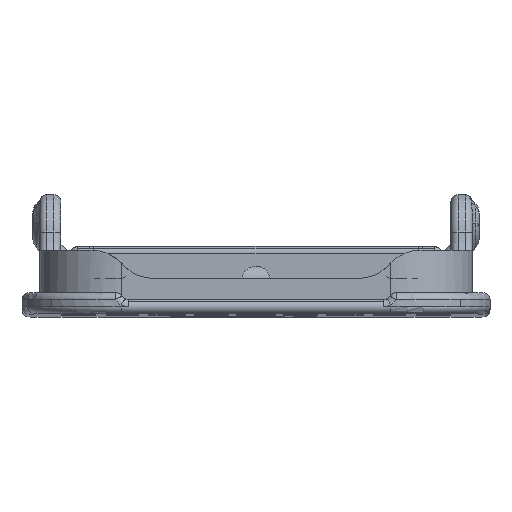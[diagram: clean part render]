
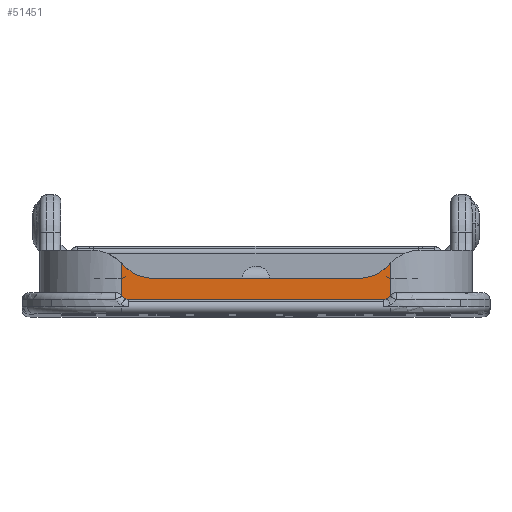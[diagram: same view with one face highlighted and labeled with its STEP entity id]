
A CAD part, top view. The second image highlights one B-rep face of the part: STEP entity #51451.
In plain terms, the highlighted planar face has unit normal (0, 0, 1).
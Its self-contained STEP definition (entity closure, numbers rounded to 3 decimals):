
#4948 = VERTEX_POINT ( 'NONE', #15535 ) ;
#4992 = AXIS2_PLACEMENT_3D ( 'NONE', #56208, #36270, #16080 ) ;
#5212 = ORIENTED_EDGE ( 'NONE', *, *, #5486, .T. ) ;
#5357 = AXIS2_PLACEMENT_3D ( 'NONE', #63419, #14457, #49699 ) ;
#5486 = EDGE_CURVE ( 'NONE', #4948, #61225, #27802, .T. ) ;
#5543 = LINE ( 'NONE', #29641, #30106 ) ;
#5637 = VERTEX_POINT ( 'NONE', #30685 ) ;
#5842 = DIRECTION ( 'NONE',  ( 0., 0., 1. ) ) ;
#6503 = CARTESIAN_POINT ( 'NONE',  ( -430.244, -23.5, 93.235 ) ) ;
#7091 = CIRCLE ( 'NONE', #4992, 0.5 ) ;
#7237 = CARTESIAN_POINT ( 'NONE',  ( -415.628, -23.5, 93.235 ) ) ;
#7571 = ORIENTED_EDGE ( 'NONE', *, *, #27723, .T. ) ;
#7679 = CIRCLE ( 'NONE', #24340, 0.5 ) ;
#10435 = LINE ( 'NONE', #6503, #60187 ) ;
#10948 = VERTEX_POINT ( 'NONE', #64138 ) ;
#11665 = VERTEX_POINT ( 'NONE', #28629 ) ;
#11806 = CIRCLE ( 'NONE', #19037, 3. ) ;
#12450 = EDGE_CURVE ( 'NONE', #38748, #50446, #40741, .T. ) ;
#12491 = VERTEX_POINT ( 'NONE', #60450 ) ;
#12916 = EDGE_CURVE ( 'NONE', #54202, #51184, #14782, .T. ) ;
#13172 = FACE_OUTER_BOUND ( 'NONE', #63443, .T. ) ;
#14457 = DIRECTION ( 'NONE',  ( 0., 0., -1. ) ) ;
#14499 = DIRECTION ( 'NONE',  ( -0.943, -0.333, 0. ) ) ;
#14782 = CIRCLE ( 'NONE', #47048, 0.5 ) ;
#15535 = CARTESIAN_POINT ( 'NONE',  ( -434.994, -20.901, 93.235 ) ) ;
#16073 = ORIENTED_EDGE ( 'NONE', *, *, #32678, .T. ) ;
#16080 = DIRECTION ( 'NONE',  ( 0.5, 0.866, 0. ) ) ;
#16521 = CIRCLE ( 'NONE', #28988, 0.5 ) ;
#17105 = ORIENTED_EDGE ( 'NONE', *, *, #25602, .T. ) ;
#19037 = AXIS2_PLACEMENT_3D ( 'NONE', #50718, #24938, #14499 ) ;
#19363 = CARTESIAN_POINT ( 'NONE',  ( -416.494, -23., 93.235 ) ) ;
#19463 = CARTESIAN_POINT ( 'NONE',  ( -432.665, -22., 93.235 ) ) ;
#19488 = DIRECTION ( 'NONE',  ( 0.943, -0.333, 0. ) ) ;
#20776 = AXIS2_PLACEMENT_3D ( 'NONE', #61153, #56543, #25915 ) ;
#20903 = ORIENTED_EDGE ( 'NONE', *, *, #41640, .F. ) ;
#22129 = AXIS2_PLACEMENT_3D ( 'NONE', #7237, #52567, #37822 ) ;
#22221 = DIRECTION ( 'NONE',  ( 0.707, -0.707, 0. ) ) ;
#22451 = CIRCLE ( 'NONE', #57834, 0.5 ) ;
#23838 = CARTESIAN_POINT ( 'NONE',  ( -434.927, -23.25, 93.235 ) ) ;
#24340 = AXIS2_PLACEMENT_3D ( 'NONE', #19363, #39251, #59180 ) ;
#24797 = AXIS2_PLACEMENT_3D ( 'NONE', #52320, #41538, #47739 ) ;
#24938 = DIRECTION ( 'NONE',  ( 0., 0., -1. ) ) ;
#25602 = EDGE_CURVE ( 'NONE', #61225, #54202, #7091, .T. ) ;
#25728 = DIRECTION ( 'NONE',  ( -0.707, -0.707, 0. ) ) ;
#25915 = DIRECTION ( 'NONE',  ( 0.408, 0.913, 0. ) ) ;
#26294 = CIRCLE ( 'NONE', #22129, 0.5 ) ;
#26500 = EDGE_CURVE ( 'NONE', #12491, #5637, #16521, .T. ) ;
#26615 = VERTEX_POINT ( 'NONE', #27429 ) ;
#27429 = CARTESIAN_POINT ( 'NONE',  ( -434.494, -23.5, 93.235 ) ) ;
#27565 = EDGE_CURVE ( 'NONE', #4948, #11665, #31128, .T. ) ;
#27723 = EDGE_CURVE ( 'NONE', #44488, #50446, #5543, .T. ) ;
#27802 = LINE ( 'NONE', #41808, #50246 ) ;
#28629 = CARTESIAN_POINT ( 'NONE',  ( -434.902, -21., 93.235 ) ) ;
#28988 = AXIS2_PLACEMENT_3D ( 'NONE', #57763, #31663, #22221 ) ;
#29577 = DIRECTION ( 'NONE',  ( 0., 0., 1. ) ) ;
#29641 = CARTESIAN_POINT ( 'NONE',  ( -415.994, -23., 93.235 ) ) ;
#30041 = ORIENTED_EDGE ( 'NONE', *, *, #12916, .T. ) ;
#30106 = VECTOR ( 'NONE', #44977, 1000. ) ;
#30685 = CARTESIAN_POINT ( 'NONE',  ( -416.061, -23.25, 93.235 ) ) ;
#31128 = CIRCLE ( 'NONE', #20776, 3. ) ;
#31233 = VECTOR ( 'NONE', #51804, 1000. ) ;
#31663 = DIRECTION ( 'NONE',  ( 0., 0., 1. ) ) ;
#32152 = CARTESIAN_POINT ( 'NONE',  ( -434.847, -23.354, 93.235 ) ) ;
#32657 = DIRECTION ( 'NONE',  ( 0., -1., 0. ) ) ;
#32678 = EDGE_CURVE ( 'NONE', #46635, #11665, #11806, .T. ) ;
#32708 = CIRCLE ( 'NONE', #50488, 3. ) ;
#33225 = DIRECTION ( 'NONE',  ( -0.707, -0.707, 0. ) ) ;
#33943 = ORIENTED_EDGE ( 'NONE', *, *, #27565, .F. ) ;
#36117 = LINE ( 'NONE', #61912, #31233 ) ;
#36120 = CARTESIAN_POINT ( 'NONE',  ( -434.494, -23., 93.235 ) ) ;
#36270 = DIRECTION ( 'NONE',  ( 0., 0., -1. ) ) ;
#37822 = DIRECTION ( 'NONE',  ( -0.5, 0.866, 0. ) ) ;
#38118 = DIRECTION ( 'NONE',  ( 0., 0., 1. ) ) ;
#38748 = VERTEX_POINT ( 'NONE', #59394 ) ;
#38881 = CARTESIAN_POINT ( 'NONE',  ( -415.994, -23.159, 93.235 ) ) ;
#39251 = DIRECTION ( 'NONE',  ( 0., 0., 1. ) ) ;
#40741 = CIRCLE ( 'NONE', #5357, 3. ) ;
#41538 = DIRECTION ( 'NONE',  ( 0., 0., 1. ) ) ;
#41640 = EDGE_CURVE ( 'NONE', #44488, #5637, #26294, .T. ) ;
#41774 = ORIENTED_EDGE ( 'NONE', *, *, #26500, .T. ) ;
#41808 = CARTESIAN_POINT ( 'NONE',  ( -434.994, -23., 93.235 ) ) ;
#42748 = CARTESIAN_POINT ( 'NONE',  ( -434.994, -23.159, 93.235 ) ) ;
#42831 = ORIENTED_EDGE ( 'NONE', *, *, #12450, .F. ) ;
#43745 = ORIENTED_EDGE ( 'NONE', *, *, #47368, .T. ) ;
#44488 = VERTEX_POINT ( 'NONE', #38881 ) ;
#44977 = DIRECTION ( 'NONE',  ( 0., 1., 0. ) ) ;
#46635 = VERTEX_POINT ( 'NONE', #19463 ) ;
#47048 = AXIS2_PLACEMENT_3D ( 'NONE', #36120, #5842, #25728 ) ;
#47368 = EDGE_CURVE ( 'NONE', #51184, #26615, #22451, .T. ) ;
#47476 = ORIENTED_EDGE ( 'NONE', *, *, #57619, .F. ) ;
#47739 = DIRECTION ( 'NONE',  ( 1., 0., 0. ) ) ;
#48256 = CARTESIAN_POINT ( 'NONE',  ( -434.494, -23., 93.235 ) ) ;
#49177 = CARTESIAN_POINT ( 'NONE',  ( -418.322, -19., 93.235 ) ) ;
#49699 = DIRECTION ( 'NONE',  ( -0.408, 0.913, 0. ) ) ;
#50246 = VECTOR ( 'NONE', #32657, 1000. ) ;
#50446 = VERTEX_POINT ( 'NONE', #52642 ) ;
#50488 = AXIS2_PLACEMENT_3D ( 'NONE', #49177, #29577, #19488 ) ;
#50718 = CARTESIAN_POINT ( 'NONE',  ( -432.665, -19., 93.235 ) ) ;
#51184 = VERTEX_POINT ( 'NONE', #32152 ) ;
#51451 = ADVANCED_FACE ( 'NONE', ( #13172 ), #51709, .T. ) ;
#51709 = PLANE ( 'NONE',  #24797 ) ;
#51804 = DIRECTION ( 'NONE',  ( 1., 0., 0. ) ) ;
#51901 = ORIENTED_EDGE ( 'NONE', *, *, #54774, .F. ) ;
#52320 = CARTESIAN_POINT ( 'NONE',  ( -434.994, -23., 93.235 ) ) ;
#52567 = DIRECTION ( 'NONE',  ( 0., 0., 1. ) ) ;
#52590 = ORIENTED_EDGE ( 'NONE', *, *, #64060, .T. ) ;
#52642 = CARTESIAN_POINT ( 'NONE',  ( -415.994, -20.901, 93.235 ) ) ;
#54202 = VERTEX_POINT ( 'NONE', #23838 ) ;
#54774 = EDGE_CURVE ( 'NONE', #46635, #63997, #36117, .T. ) ;
#56208 = CARTESIAN_POINT ( 'NONE',  ( -435.36, -23.5, 93.235 ) ) ;
#56499 = EDGE_CURVE ( 'NONE', #10948, #12491, #7679, .T. ) ;
#56543 = DIRECTION ( 'NONE',  ( 0., 0., -1. ) ) ;
#57619 = EDGE_CURVE ( 'NONE', #63997, #38748, #32708, .T. ) ;
#57763 = CARTESIAN_POINT ( 'NONE',  ( -416.494, -23., 93.235 ) ) ;
#57834 = AXIS2_PLACEMENT_3D ( 'NONE', #48256, #38118, #33225 ) ;
#59180 = DIRECTION ( 'NONE',  ( 0.707, -0.707, 0. ) ) ;
#59394 = CARTESIAN_POINT ( 'NONE',  ( -416.086, -21., 93.235 ) ) ;
#59679 = CARTESIAN_POINT ( 'NONE',  ( -418.322, -22., 93.235 ) ) ;
#60187 = VECTOR ( 'NONE', #61311, 1000. ) ;
#60450 = CARTESIAN_POINT ( 'NONE',  ( -416.14, -23.354, 93.235 ) ) ;
#61153 = CARTESIAN_POINT ( 'NONE',  ( -437.138, -23., 93.235 ) ) ;
#61225 = VERTEX_POINT ( 'NONE', #42748 ) ;
#61311 = DIRECTION ( 'NONE',  ( 1., 0., 0. ) ) ;
#61912 = CARTESIAN_POINT ( 'NONE',  ( -430.244, -22., 93.235 ) ) ;
#62240 = ORIENTED_EDGE ( 'NONE', *, *, #56499, .T. ) ;
#63419 = CARTESIAN_POINT ( 'NONE',  ( -413.85, -23., 93.235 ) ) ;
#63443 = EDGE_LOOP ( 'NONE', ( #42831, #47476, #51901, #16073, #33943, #5212, #17105, #30041, #43745, #52590, #62240, #41774, #20903, #7571 ) ) ;
#63997 = VERTEX_POINT ( 'NONE', #59679 ) ;
#64060 = EDGE_CURVE ( 'NONE', #26615, #10948, #10435, .T. ) ;
#64138 = CARTESIAN_POINT ( 'NONE',  ( -416.494, -23.5, 93.235 ) ) ;
